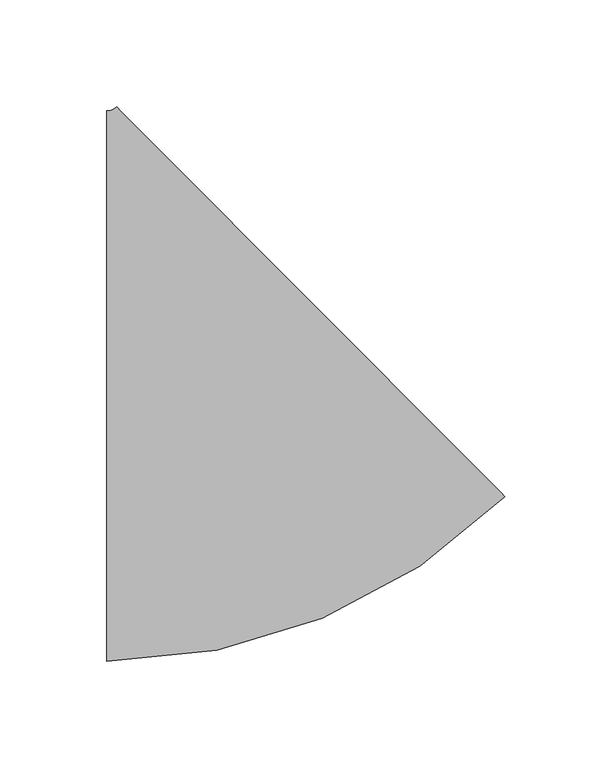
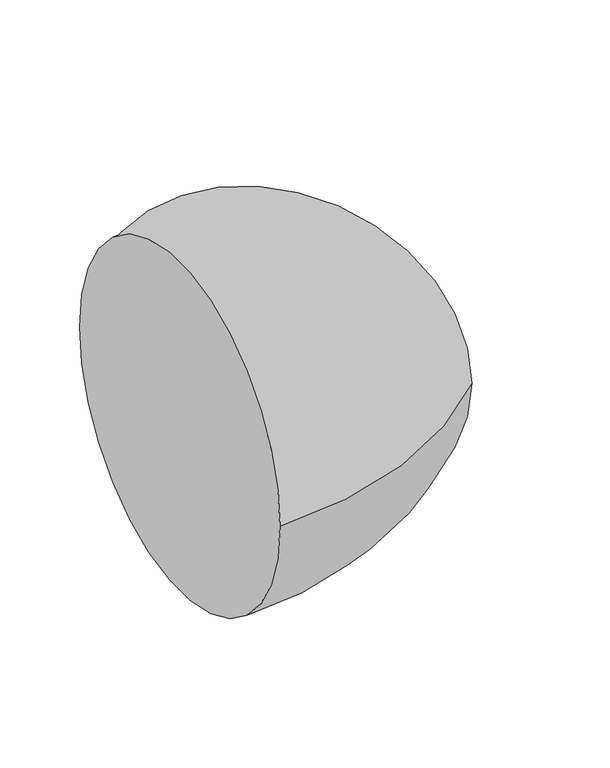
"""IFC4 building model written with IfcOpenShell, lengths in millimetres: pipe fitting geometry, M_Codo - Genérico : Estándar."""

from ifc_helpers import new_model, si_unit, point, frame, origin, place, context, project, spatial, circle_curve, ellipse_curve, trimmed, source, transform, mapped, element, save
from ifc_brep_helpers import plane_surface, revolved_surface, advanced_brep


def pipe_fitting_057bb177(model_context):
    return source(origin(), model_context, "Body", "AdvancedBrep", [
        advanced_brep(
        [(-55.7737749, -128.5875, 0.0), (-55.7737749, 128.5875, 0.0), (130.2853132, -51.6836171, 0.0), (-51.2904234, 130.4406056, 0.0)],
        [
            (0, 1, circle_curve(frame((-55.7737749, 0.0, 0.0), z_axis=(-1.0, 0.0, 0.0), x_axis=(0.0, 1.0, 0.0)), 128.5875)),
            (1, 0, circle_curve(frame((-55.7737749, 0.0, 0.0), z_axis=(-1.0, 0.0, 0.0), x_axis=(0.0, 1.0, 0.0)), 128.5875)),
            (2, 3, circle_curve(frame((39.4974449, 39.3784942, 0.0), z_axis=(0.7081723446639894, 0.7060396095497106, 0.0), x_axis=(-0.7060396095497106, 0.7081723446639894, 0.0)), 128.5875)),
            (3, 2, circle_curve(frame((39.4974449, 39.3784942, 0.0), z_axis=(0.7081723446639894, 0.7060396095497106, 0.0), x_axis=(-0.7060396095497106, 0.7081723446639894, 0.0)), 128.5875)),
            (3, 1, circle_curve(frame((-55.7737749, 134.9375, 0.0), z_axis=(0.0, 0.0, -1.0), x_axis=(0.0, -1.0, 0.0)), 6.35)),
            (0, 2, circle_curve(frame((-55.7737749, 134.9375, 0.0), z_axis=(0.0, 0.0, 1.0), x_axis=(0.0, -1.0, 0.0)), 263.525)),
        ],
        [
            plane_surface(frame((-55.7737749, 0.0, 0.0), z_axis=(-1.0, 0.0, 0.0), x_axis=(0.0, 0.0, 1.0))),
            plane_surface(frame((39.4974449, 39.3784942, 0.0), z_axis=(0.7081723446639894, 0.7060396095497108, 0.0), x_axis=(0.0, 0.0, 1.0))),
            revolved_surface(trimmed(ellipse_curve(frame((-55.7737749, 0.0, 0.0), z_axis=(-1.0, 0.0, 0.0), x_axis=(0.0, 1.0, 0.0)), 128.5875, 128.5875), [point((-55.7737749, -128.5875, 0.0))], [point((-55.7737749, 128.5875, 0.0))], True, "CARTESIAN"), (-55.7737749, 134.9375, 0.0), (0.0, 0.0, 1.0)),
            revolved_surface(trimmed(ellipse_curve(frame((-55.7737749, 0.0, 0.0), z_axis=(-1.0, 0.0, 0.0), x_axis=(0.0, 1.0, 0.0)), 128.5875, 128.5875), [point((-55.7737749, 128.5875, 0.0))], [point((-55.7737749, -128.5875, 0.0))], True, "CARTESIAN"), (-55.7737749, 134.9375, 0.0), (0.0, 0.0, 1.0)),
        ],
        [
            (0, [[1, 2]]),
            (1, [[3, 4]]),
            (2, [[5, -1, 6, -4]]),
            (3, [[-6, -2, -5, -3]]),
        ],
    ),
    ])


if __name__ == "__main__":
    model = new_model("IFC4")
    model_context = context("Model", 3, world=origin())
    ifc_project = project(units=[si_unit("LENGTHUNIT", "METRE", prefix="MILLI")], contexts=[model_context])
    site = spatial("IfcSite", under=ifc_project)
    building = spatial("IfcBuilding", under=site)
    placement = place(None, origin())
    pipe_fitting_shape = pipe_fitting_057bb177(model_context)
    element("IfcPipeFitting", 1, ObjectType="M_Codo - Genérico : Estándar", at=placement, inside=building, context=model_context, shape_type="MappedRepresentation", body=[
        mapped(pipe_fitting_shape, transform((0.0, 0.0, 0.0), x_axis=(1.0, 0.0, 0.0), y_axis=(0.0, 1.0, 0.0), z_axis=(0.0, 0.0, 1.0))),
    ])
    save(model, "model.ifc")
